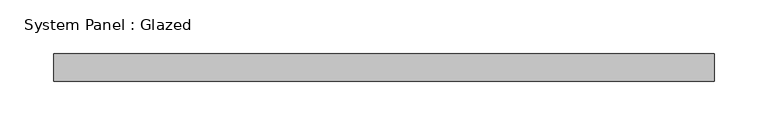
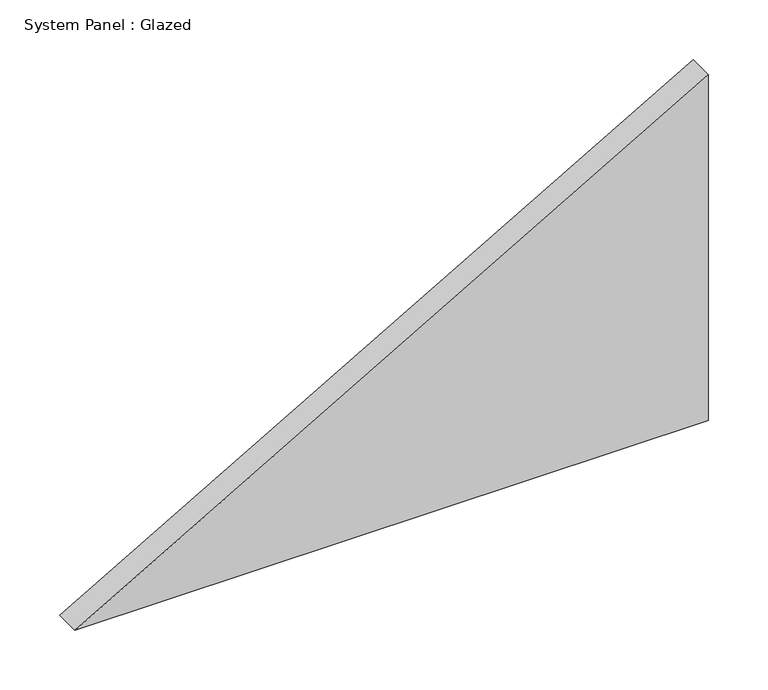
"""IFC4 building model written with IfcOpenShell, lengths in millimetres: plate geometry, System Panel : Glazed."""

from ifc_helpers import new_model, si_unit, frame, origin, place, context, project, spatial, polyline, outline, extrude, source, transform, mapped, element, save


def system_panel_glazed_849c0ae1(model_context):
    return source(origin(), model_context, "Body", "SweptSolid", [
        extrude(outline(polyline([(0.0, -307.2955211), (0.0, 307.2955211), (354.8343037, 307.2955211), (0.0, -307.2955211)])), frame((0.0, 19.05, 0.0), z_axis=(0.0, 1.0, 0.0), x_axis=(0.0, 0.0, 1.0)), (0.0, 0.0, 1.0), 25.4),
    ])


if __name__ == "__main__":
    model = new_model("IFC4")
    model_context = context("Model", 3, world=origin())
    ifc_project = project(units=[si_unit("LENGTHUNIT", "METRE", prefix="MILLI")], contexts=[model_context])
    site = spatial("IfcSite", under=ifc_project)
    building = spatial("IfcBuilding", under=site)
    placement = place(None, origin())
    system_panel_glazed_shape = system_panel_glazed_849c0ae1(model_context)
    element("IfcPlate", 1, ObjectType="System Panel : Glazed", at=placement, inside=building, context=model_context, shape_type="MappedRepresentation", body=[
        mapped(system_panel_glazed_shape, transform((0.0, 0.0, 0.0), x_axis=(1.0, 0.0, 0.0), y_axis=(0.0, 1.0, 0.0), z_axis=(0.0, 0.0, 1.0))),
    ])
    save(model, "model.ifc")
